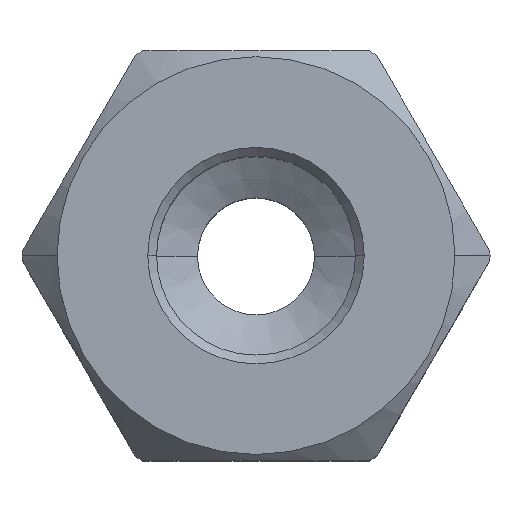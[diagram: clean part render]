
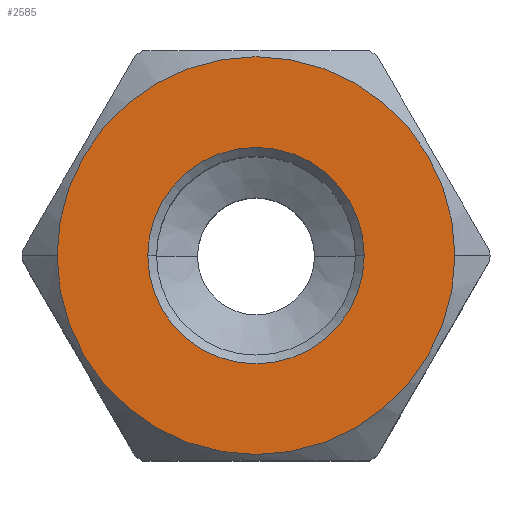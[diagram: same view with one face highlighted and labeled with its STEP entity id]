
A CAD part, top view. The second image highlights one B-rep face of the part: STEP entity #2585.
In plain terms, the highlighted planar face has unit normal (0, 0, 1).
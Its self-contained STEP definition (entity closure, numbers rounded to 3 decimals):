
#18 = EDGE_CURVE ( 'NONE', #1936, #1183, #316, .T. ) ;
#139 = DIRECTION ( 'NONE',  ( 0., 0., -1. ) ) ;
#316 = CIRCLE ( 'NONE', #1902, 3.7 ) ;
#366 = VERTEX_POINT ( 'NONE', #2543 ) ;
#451 = PLANE ( 'NONE',  #1785 ) ;
#538 = DIRECTION ( 'NONE',  ( 1., 0., 0. ) ) ;
#580 = EDGE_LOOP ( 'NONE', ( #2599, #1176 ) ) ;
#630 = CIRCLE ( 'NONE', #2614, 3.7 ) ;
#661 = CARTESIAN_POINT ( 'NONE',  ( 3.5, 0., 0. ) ) ;
#800 = CARTESIAN_POINT ( 'NONE',  ( 0., 0., 0. ) ) ;
#974 = CARTESIAN_POINT ( 'NONE',  ( 0., 0., 0. ) ) ;
#1144 = DIRECTION ( 'NONE',  ( 0., 0., -1. ) ) ;
#1158 = DIRECTION ( 'NONE',  ( 1., 0., 0. ) ) ;
#1163 = EDGE_LOOP ( 'NONE', ( #2370, #1806 ) ) ;
#1176 = ORIENTED_EDGE ( 'NONE', *, *, #2427, .T. ) ;
#1183 = VERTEX_POINT ( 'NONE', #2535 ) ;
#1343 = DIRECTION ( 'NONE',  ( 0., 0., 1. ) ) ;
#1384 = CARTESIAN_POINT ( 'NONE',  ( 0., 0., 0. ) ) ;
#1497 = DIRECTION ( 'NONE',  ( 0., 0., 1. ) ) ;
#1539 = AXIS2_PLACEMENT_3D ( 'NONE', #1384, #1810, #2668 ) ;
#1559 = AXIS2_PLACEMENT_3D ( 'NONE', #2425, #1343, #538 ) ;
#1701 = VERTEX_POINT ( 'NONE', #2327 ) ;
#1785 = AXIS2_PLACEMENT_3D ( 'NONE', #661, #1497, #2340 ) ;
#1806 = ORIENTED_EDGE ( 'NONE', *, *, #18, .T. ) ;
#1810 = DIRECTION ( 'NONE',  ( 0., 0., 1. ) ) ;
#1870 = EDGE_CURVE ( 'NONE', #366, #1701, #2542, .T. ) ;
#1878 = FACE_BOUND ( 'NONE', #1163, .T. ) ;
#1902 = AXIS2_PLACEMENT_3D ( 'NONE', #800, #139, #2683 ) ;
#1936 = VERTEX_POINT ( 'NONE', #2061 ) ;
#2047 = CIRCLE ( 'NONE', #1559, 6.8 ) ;
#2061 = CARTESIAN_POINT ( 'NONE',  ( -3.7, 0., 0. ) ) ;
#2125 = FACE_OUTER_BOUND ( 'NONE', #580, .T. ) ;
#2327 = CARTESIAN_POINT ( 'NONE',  ( 6.8, 0., 0. ) ) ;
#2337 = EDGE_CURVE ( 'NONE', #1183, #1936, #630, .T. ) ;
#2340 = DIRECTION ( 'NONE',  ( 1., 0., 0. ) ) ;
#2370 = ORIENTED_EDGE ( 'NONE', *, *, #2337, .T. ) ;
#2425 = CARTESIAN_POINT ( 'NONE',  ( 0., 0., 0. ) ) ;
#2427 = EDGE_CURVE ( 'NONE', #1701, #366, #2047, .T. ) ;
#2535 = CARTESIAN_POINT ( 'NONE',  ( 3.7, 0., 0. ) ) ;
#2542 = CIRCLE ( 'NONE', #1539, 6.8 ) ;
#2543 = CARTESIAN_POINT ( 'NONE',  ( -6.8, 0., 0. ) ) ;
#2585 = ADVANCED_FACE ( 'NONE', ( #1878, #2125 ), #451, .T. ) ;
#2599 = ORIENTED_EDGE ( 'NONE', *, *, #1870, .T. ) ;
#2614 = AXIS2_PLACEMENT_3D ( 'NONE', #974, #1144, #1158 ) ;
#2668 = DIRECTION ( 'NONE',  ( 1., 0., 0. ) ) ;
#2683 = DIRECTION ( 'NONE',  ( 1., 0., 0. ) ) ;
